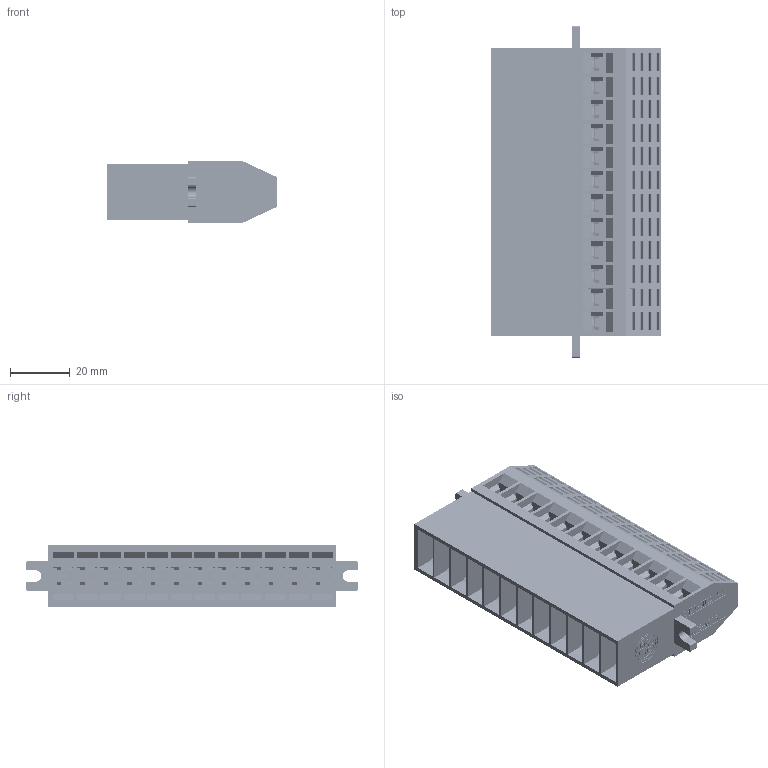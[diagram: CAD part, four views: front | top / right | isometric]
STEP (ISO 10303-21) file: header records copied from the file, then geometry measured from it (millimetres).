
FILE_DESCRIPTION(('STEP AP214'), '1');
FILE_NAME('栖闉罻 (12) 麧蠉錪', '2024-05-03T06:02:35', (''), (''), 'ASCON STEP Converter 1.6', 'ASCON Math Kernel', '');
FILE_SCHEMA(('AUTOMOTIVE_DESIGN { 1 0 10303 214 3 1 1}'));
Length unit declared in the file: millimetre
Bounding box: 57 x 111.4 x 21 mm (x, y, z)
Volume: 54768.2 mm3; surface area: 59968.8 mm2
Topology: 49 solids, 49 shells, 19189 faces, 55120 edges, 36514 vertices
Faces by surface type: plane 9634, cylinder 9423, bspline 96, torus 24, sphere 12
Full cylindrical faces by diameter (mm): 1 x24, 3 x24, 5.6 x12, 11.4 x12
Entity records: 790727 total; most frequent: CARTESIAN_POINT 115756, DIRECTION 112109, ORIENTED_EDGE 110024, EDGE_CURVE 55012, AXIS2_PLACEMENT_3D 38207, VERTEX_POINT 36514, LINE 35695, VECTOR 35695
